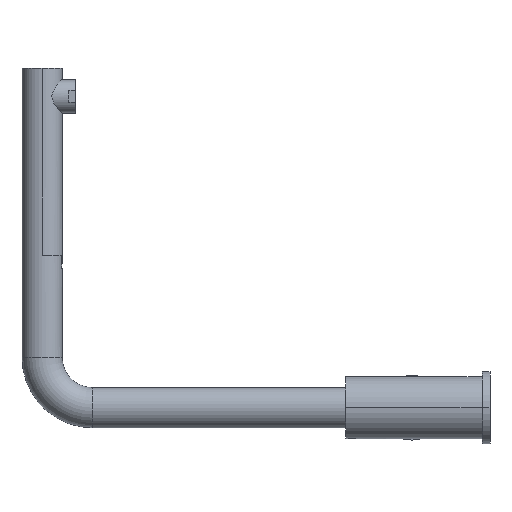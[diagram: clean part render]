
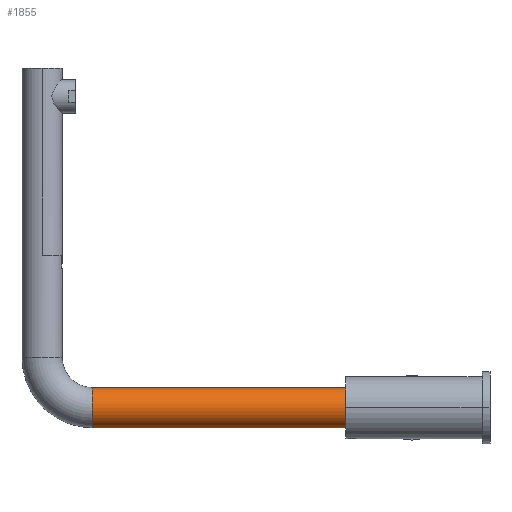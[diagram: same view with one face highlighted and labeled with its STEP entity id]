
A CAD part, left-side view. The second image highlights one B-rep face of the part: STEP entity #1855.
In plain terms, the highlighted cylindrical face has radius 14 mm (diameter 28 mm), a partial arc.
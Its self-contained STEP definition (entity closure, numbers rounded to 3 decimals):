
#310=CYLINDRICAL_SURFACE('',#18154,14.);
#882=CIRCLE('',#18108,14.);
#887=CIRCLE('',#18116,14.);
#1855=ADVANCED_FACE('',(#3383),#310,.T.);
#3383=FACE_OUTER_BOUND('',#4384,.T.);
#4384=EDGE_LOOP('',(#8000,#8001,#8002,#8003));
#8000=ORIENTED_EDGE('',*,*,#12966,.T.);
#8001=ORIENTED_EDGE('',*,*,#12962,.T.);
#8002=ORIENTED_EDGE('',*,*,#12965,.F.);
#8003=ORIENTED_EDGE('',*,*,#12969,.F.);
#10830=VERTEX_POINT('',#32211);
#10831=VERTEX_POINT('',#32213);
#10832=VERTEX_POINT('',#32219);
#10833=VERTEX_POINT('',#32221);
#12962=EDGE_CURVE('',#10831,#10830,#882,.T.);
#12965=EDGE_CURVE('',#10832,#10830,#14832,.T.);
#12966=EDGE_CURVE('',#10833,#10831,#14833,.T.);
#12969=EDGE_CURVE('',#10833,#10832,#887,.T.);
#14832=LINE('',#32218,#16604);
#14833=LINE('',#32220,#16605);
#16604=VECTOR('',#21445,1.);
#16605=VECTOR('',#21446,1.);
#18108=AXIS2_PLACEMENT_3D('',#32212,#21435,#21436);
#18116=AXIS2_PLACEMENT_3D('',#32225,#21453,#21454);
#18154=AXIS2_PLACEMENT_3D('',#32656,#21543,#21544);
#21435=DIRECTION('',(0.,-1.,0.));
#21436=DIRECTION('',(0.,0.,1.));
#21445=DIRECTION('',(0.,1.,0.));
#21446=DIRECTION('',(0.,1.,0.));
#21453=DIRECTION('',(0.,-1.,0.));
#21454=DIRECTION('',(0.,0.,1.));
#21543=DIRECTION('',(0.,-1.,0.));
#21544=DIRECTION('',(0.,0.,-1.));
#32211=CARTESIAN_POINT('',(0.,276.5,-14.));
#32212=CARTESIAN_POINT('',(0.,276.5,0.));
#32213=CARTESIAN_POINT('',(0.,276.5,14.));
#32218=CARTESIAN_POINT('',(0.,276.5,-14.));
#32219=CARTESIAN_POINT('',(0.,100.5,-14.));
#32220=CARTESIAN_POINT('',(0.,276.5,14.));
#32221=CARTESIAN_POINT('',(0.,100.5,14.));
#32225=CARTESIAN_POINT('',(0.,100.5,0.));
#32656=CARTESIAN_POINT('',(0.,276.5,0.));
